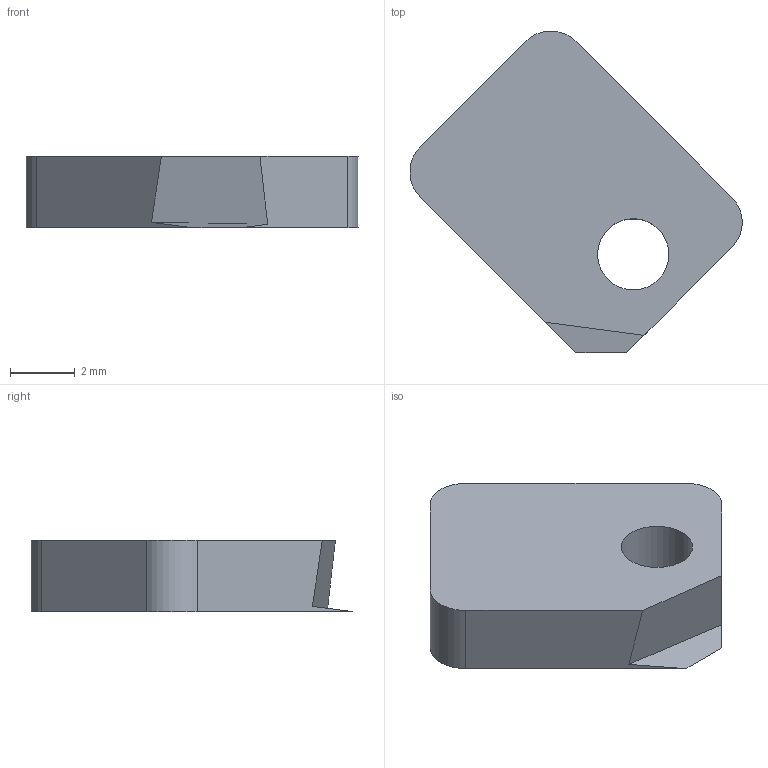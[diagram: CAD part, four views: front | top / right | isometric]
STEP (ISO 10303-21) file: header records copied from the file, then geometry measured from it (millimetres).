
FILE_DESCRIPTION(('Open CASCADE Model'),'2;1');
FILE_NAME('Open CASCADE Shape Model','2026-09-16T15:34:22',('Author'),( 'Open CASCADE'),'Open CASCADE STEP processor 7.7','Open CASCADE 7.7' ,'Unknown');
FILE_SCHEMA(('AUTOMOTIVE_DESIGN { 1 0 10303 214 1 1 1 1 }'));
Length unit declared in the file: millimetre
Products named in the file (1): COMPOUND
Bounding box: 10.25 x 9.93 x 2.2 mm (x, y, z)
Volume: 118.7 mm3; surface area: 191.3 mm2
Topology: 1 solids, 1 shells, 12 faces, 30 edges, 20 vertices
Faces by surface type: plane 8, cylinder 4
Full cylindrical faces by diameter (mm): 2.2 x1
Entity records: 754 total; most frequent: CARTESIAN_POINT 135, DIRECTION 112, LINE 62, VECTOR 62, ORIENTED_EDGE 60, PCURVE 60, DEFINITIONAL_REPRESENTATION 60, EDGE_CURVE 30
